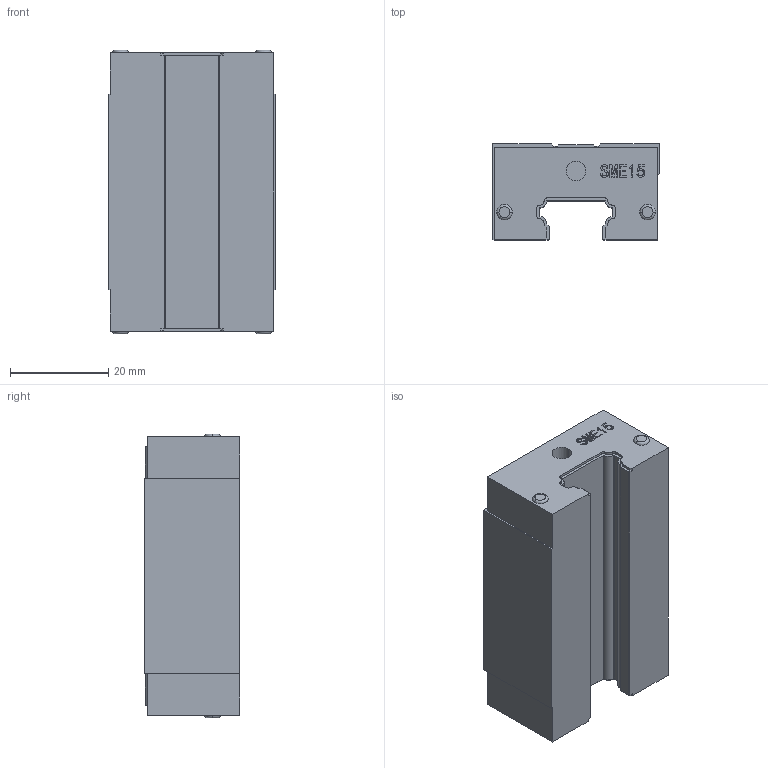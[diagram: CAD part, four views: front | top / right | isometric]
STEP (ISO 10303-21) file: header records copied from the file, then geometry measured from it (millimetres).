
FILE_DESCRIPTION (( 'STEP AP203' ), '1' );
FILE_NAME ('SME15B.stp', '2019-09-20T10:50:23', ( 'pgos' ), ( '' ), 'SwSTEP 2.0', 'SolidWorks 2014', '' );
FILE_SCHEMA (( 'CONFIG_CONTROL_DESIGN' ));
Length unit declared in the file: millimetre
Products named in the file (1): SME15B
Bounding box: 34 x 19.5 x 57.8 mm (x, y, z)
Volume: 30607.2 mm3; surface area: 8919.1 mm2
Topology: 1 solids, 1 shells, 203 faces, 548 edges, 364 vertices
Faces by surface type: plane 119, cylinder 58, bspline 18, torus 8
Entity records: 7667 total; most frequent: CARTESIAN_POINT 2462, ORIENTED_EDGE 1096, DIRECTION 1024, EDGE_CURVE 548, LINE 372, VECTOR 372, VERTEX_POINT 364, AXIS2_PLACEMENT_3D 326
